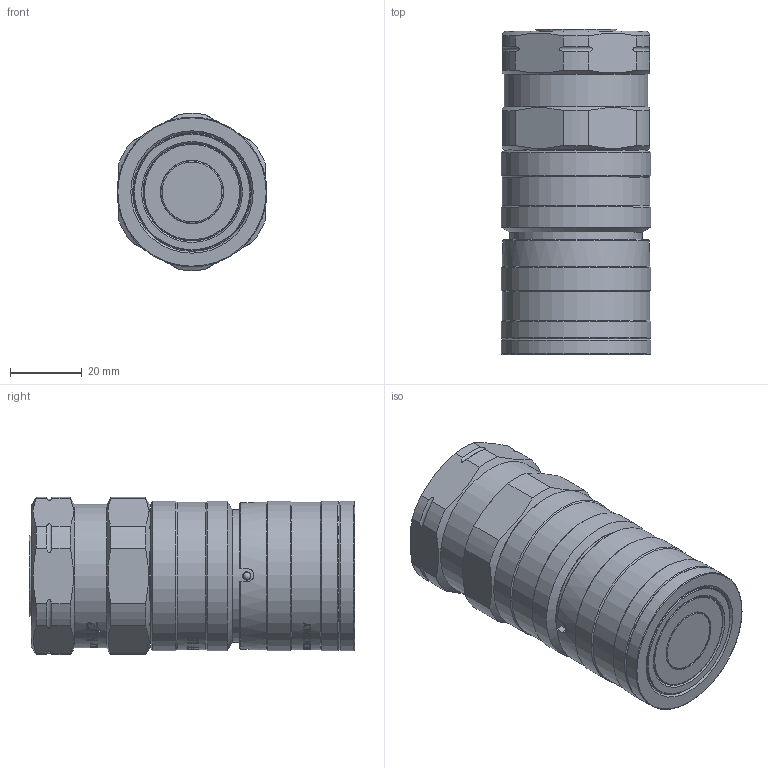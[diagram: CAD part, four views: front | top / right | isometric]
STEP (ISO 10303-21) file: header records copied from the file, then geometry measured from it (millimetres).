
FILE_DESCRIPTION(/* description */ (''),/* implementation_level */ '2;1');
FILE_NAME(/* name */ 'NC06N030004.stp',/* time_stamp */ '2024-08-26T16:05:58+02:00',/* author */ ('thomas.belotti'),/* organization */ (''),/* preprocessor_version */ 'ST-DEVELOPER v20',/* originating_system */ 'Autodesk Inventor 2024',/* authorisation */ '');
FILE_SCHEMA (('AUTOMOTIVE_DESIGN { 1 0 10303 214 3 1 1 }'));
Products named in the file (1): Parte9
Bounding box: 41.7 x 90.49 x 43.73 mm (x, y, z)
Volume: 115634.5 mm3; surface area: 22413.9 mm2
Topology: 1 solids, 3 shells, 1600 faces, 4542 edges, 3020 vertices
Faces by surface type: bspline 1027, plane 419, cylinder 119, cone 20, torus 13, sphere 2
Full cylindrical faces by diameter (mm): 2.3 x2, 17.6 x1, 18 x1, 19 x1, 22.5 x1, 27 x1, 32.5 x1, 36.592 x3, 36.9 x2, 37 x1, 37.1 x1, 37.3 x1, 40 x1, 41 x3, 41.7 x5
Entity records: 68968 total; most frequent: CARTESIAN_POINT 32512, ORIENTED_EDGE 9084, EDGE_CURVE 4542, DIRECTION 4080, VERTEX_POINT 3020, B_SPLINE_CURVE_WITH_KNOTS 2152, LINE 1792, VECTOR 1792
